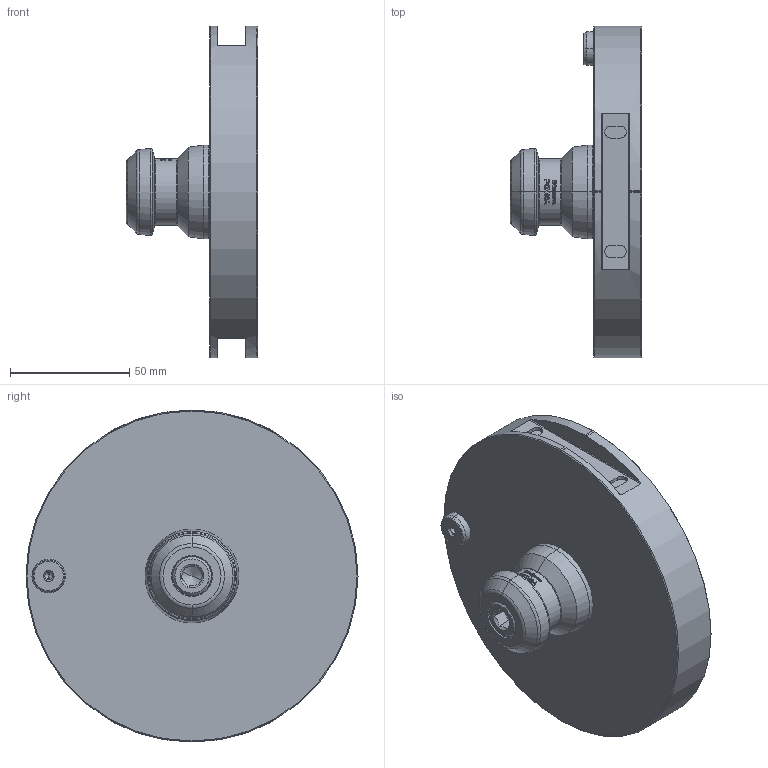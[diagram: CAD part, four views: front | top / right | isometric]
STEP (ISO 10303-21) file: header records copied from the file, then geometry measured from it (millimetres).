
FILE_DESCRIPTION (( 'STEP AP203' ), '1' );
FILE_NAME ('61P296293.STEP', '2024-04-26T07:14:58', ( '' ), ( '' ), 'SwSTEP 2.0', 'SolidWorks 2022', '' );
FILE_SCHEMA (( 'CONFIG_CONTROL_DESIGN' ));
Length unit declared in the file: millimetre
Products named in the file (5): 61P293306; 61P296293; 61P493325; 61P864281; 0030110045
Assembly tree (4 placements, depth 2):
  61P296293
    61P864281
    61P293306
    61P493325
    0030110045
Bounding box: 55 x 139 x 139 mm (x, y, z)
Volume: 325124.5 mm3; surface area: 52407.8 mm2
Topology: 4 solids, 4 shells, 326 faces, 1466 edges, 1189 vertices
Faces by surface type: plane 131, cylinder 73, cone 58, bspline 48, torus 16
Entity records: 18267 total; most frequent: CARTESIAN_POINT 7329, ORIENTED_EDGE 2920, DIRECTION 1545, EDGE_CURVE 1460, VERTEX_POINT 1189, AXIS2_PLACEMENT_3D 535, VECTOR 475, LINE 475
